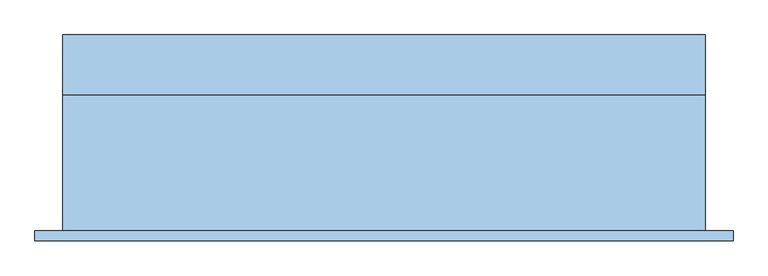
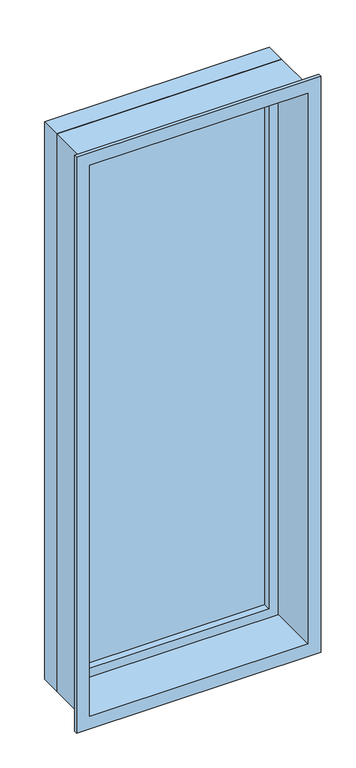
"""IFC4 building model written with IfcOpenShell, lengths in millimetres: window geometry, Vindu FK : 10X26 FK V4."""

from ifc_helpers import new_model, si_unit, frame, origin, place, context, project, spatial, polyline, outline, extrude, faceted_brep, source, transform, mapped, element, save


def window_894d641d(model_context):
    return source(origin(), model_context, "Body", "SolidModel", [
        extrude(outline(polyline([(-456.0, 94.0), (456.0, 94.0), (456.0, 70.0), (-456.0, 70.0), (-456.0, 94.0)])), frame((0.0, 0.0, 929.0), z_axis=(0.0, 0.0, 1.0), x_axis=(1.0, 0.0, 0.0)), (0.0, 0.0, 1.0), 2512.0),
        faceted_brep([(-495.0, 130.0, 890.0), (-495.0, 38.0, 890.0), (-495.0, 38.0, 3480.0), (-495.0, 130.0, 3480.0), (-456.0, 70.0, 929.0), (-456.0, 130.0, 929.0), (-456.0, 130.0, 3441.0), (-456.0, 70.0, 3441.0), (-438.0, 38.0, 947.0), (-438.0, 70.0, 947.0), (-438.0, 70.0, 3423.0), (-438.0, 38.0, 3423.0), (495.0, 38.0, 3480.0), (495.0, 130.0, 3480.0), (456.0, 130.0, 3441.0), (456.0, 70.0, 3441.0), (438.0, 70.0, 3423.0), (438.0, 38.0, 3423.0), (495.0, 38.0, 890.0), (495.0, 130.0, 890.0), (456.0, 130.0, 929.0), (456.0, 70.0, 929.0), (438.0, 70.0, 947.0), (438.0, 38.0, 947.0)], [[[0, 1, 2, 3]], [[4, 5, 6, 7]], [[8, 9, 10, 11]], [[3, 2, 12, 13]], [[7, 6, 14, 15]], [[11, 10, 16, 17]], [[13, 12, 18, 19]], [[15, 14, 20, 21]], [[17, 16, 22, 23]], [[19, 18, 1, 0]], [[3, 13, 19, 0], [5, 20, 14, 6]], [[21, 20, 5, 4]], [[7, 15, 21, 4], [9, 22, 16, 10]], [[23, 22, 9, 8]], [[1, 18, 12, 2], [11, 17, 23, 8]]]),
        faceted_brep([(-495.0, -172.0, 890.0), (-495.0, 38.0, 890.0), (495.0, 38.0, 890.0), (495.0, -172.0, 890.0), (495.0, 38.0, 3480.0), (495.0, -172.0, 3480.0), (-495.0, 38.0, 3480.0), (480.0, 38.0, 3465.0), (-480.0, 38.0, 3465.0), (-480.0, 38.0, 905.0), (480.0, 38.0, 905.0), (538.0, -172.0, 847.0), (-538.0, -172.0, 847.0), (-538.0, -172.0, 3523.0), (538.0, -172.0, 3523.0), (-495.0, -172.0, 3480.0), (-538.0, -187.0, 847.0), (538.0, -187.0, 847.0), (538.0, -187.0, 3523.0), (-538.0, -187.0, 3523.0), (480.0, -187.0, 905.0), (-480.0, -187.0, 905.0), (-480.0, -187.0, 3465.0), (480.0, -187.0, 3465.0)], [[[0, 1, 2, 3]], [[3, 2, 4, 5]], [[2, 1, 6, 4], [7, 8, 9, 10]], [[11, 12, 13, 14], [5, 15, 0, 3]], [[16, 12, 11, 17]], [[17, 11, 14, 18]], [[18, 19, 16, 17], [20, 21, 22, 23]], [[9, 21, 20, 10]], [[10, 20, 23, 7]], [[15, 6, 1, 0]], [[19, 13, 12, 16]], [[8, 22, 21, 9]], [[5, 4, 6, 15]], [[18, 14, 13, 19]], [[7, 23, 22, 8]]]),
    ])


if __name__ == "__main__":
    model = new_model("IFC4")
    model_context = context("Model", 3, world=origin())
    ifc_project = project(units=[si_unit("LENGTHUNIT", "METRE", prefix="MILLI")], contexts=[model_context])
    site = spatial("IfcSite", under=ifc_project)
    building = spatial("IfcBuilding", under=site)
    placement = place(None, origin())
    window_shape = window_894d641d(model_context)
    element("IfcWindow", 1, ObjectType="Vindu FK : 10X26 FK V4", at=placement, inside=building, context=model_context, shape_type="MappedRepresentation", body=[
        mapped(window_shape, transform((0.0, 0.0, 0.0), x_axis=(1.0, 0.0, 0.0), y_axis=(0.0, 1.0, 0.0), z_axis=(0.0, 0.0, 1.0))),
    ])
    save(model, "model.ifc")
